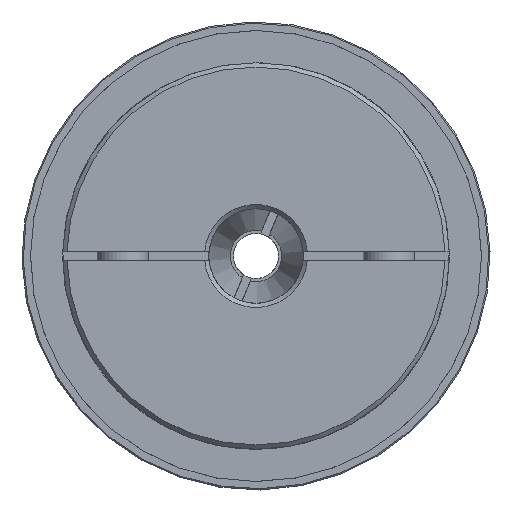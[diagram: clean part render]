
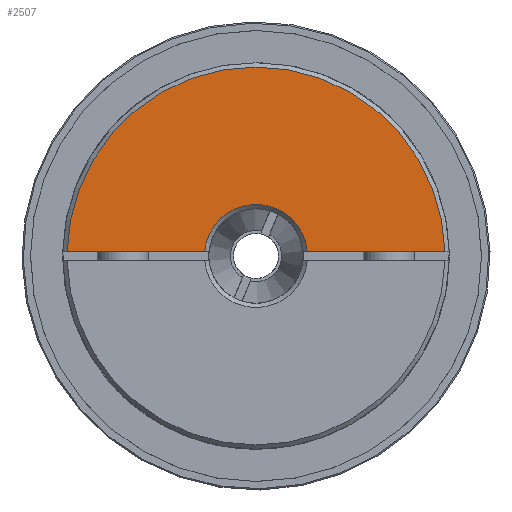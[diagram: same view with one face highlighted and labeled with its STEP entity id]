
A CAD part, left-side view. The second image highlights one B-rep face of the part: STEP entity #2507.
In plain terms, the highlighted planar face has unit normal (-1, 0, 0) as drawn and (1, 0, 0) by its records, which use the part's own axes.
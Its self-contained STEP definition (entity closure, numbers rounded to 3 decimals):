
#2507 = ADVANCED_FACE( '', ( #3557 ), #3558, .T. );
#3557 = FACE_OUTER_BOUND( '', #5270, .T. );
#3558 = PLANE( '', #5271 );
#5270 = EDGE_LOOP( '', ( #6211, #6212, #6213, #6214 ) );
#5271 = AXIS2_PLACEMENT_3D( '', #6215, #6216, #6217 );
#6211 = ORIENTED_EDGE( '', *, *, #7258, .F. );
#6212 = ORIENTED_EDGE( '', *, *, #7259, .T. );
#6213 = ORIENTED_EDGE( '', *, *, #7260, .F. );
#6214 = ORIENTED_EDGE( '', *, *, #7261, .T. );
#6215 = CARTESIAN_POINT( '', ( 41., 0., 45. ) );
#6216 = DIRECTION( '', ( 1., 0., 0. ) );
#6217 = DIRECTION( '', ( 0., 0., -1. ) );
#7258 = EDGE_CURVE( '', #9681, #9682, #9683, .T. );
#7259 = EDGE_CURVE( '', #9681, #9684, #9685, .T. );
#7260 = EDGE_CURVE( '', #9686, #9684, #9687, .T. );
#7261 = EDGE_CURVE( '', #9686, #9682, #9688, .F. );
#9681 = VERTEX_POINT( '', #10826 );
#9682 = VERTEX_POINT( '', #10827 );
#9683 = LINE( '', #10828, #10829 );
#9684 = VERTEX_POINT( '', #10830 );
#9685 = CIRCLE( '', #10831, 44. );
#9686 = VERTEX_POINT( '', #10832 );
#9687 = LINE( '', #10833, #10834 );
#9688 = CIRCLE( '', #10835, 12. );
#10826 = CARTESIAN_POINT( '', ( 41., 43.989, 1. ) );
#10827 = CARTESIAN_POINT( '', ( 41., 11.958, 1. ) );
#10828 = CARTESIAN_POINT( '', ( 41., 0., 1. ) );
#10829 = VECTOR( '', #11133, 1000. );
#10830 = CARTESIAN_POINT( '', ( 41., -43.989, 1. ) );
#10831 = AXIS2_PLACEMENT_3D( '', #11134, #11135, #11136 );
#10832 = CARTESIAN_POINT( '', ( 41., -11.958, 1. ) );
#10833 = CARTESIAN_POINT( '', ( 41., 0., 1. ) );
#10834 = VECTOR( '', #11137, 1000. );
#10835 = AXIS2_PLACEMENT_3D( '', #11138, #11139, #11140 );
#11133 = DIRECTION( '', ( 0., -1., 0. ) );
#11134 = CARTESIAN_POINT( '', ( 41., 0., 0. ) );
#11135 = DIRECTION( '', ( 1., 0., 0. ) );
#11136 = DIRECTION( '', ( 0., 0., -1. ) );
#11137 = DIRECTION( '', ( 0., -1., 0. ) );
#11138 = CARTESIAN_POINT( '', ( 41., 0., 0. ) );
#11139 = DIRECTION( '', ( 1., 0., 0. ) );
#11140 = DIRECTION( '', ( 0., 0., -1. ) );
